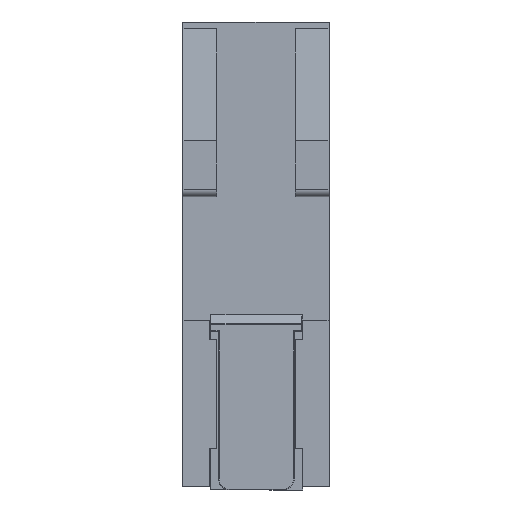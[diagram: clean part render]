
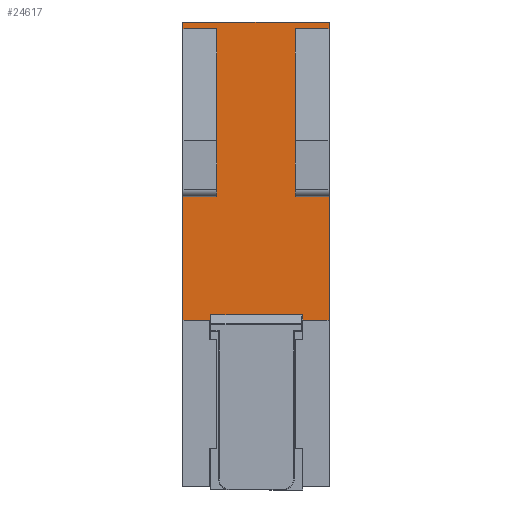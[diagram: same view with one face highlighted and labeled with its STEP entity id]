
A CAD part, left-side view. The second image highlights one B-rep face of the part: STEP entity #24617.
In plain terms, the highlighted planar face has unit normal (-1, 0, 0) as drawn and (1, 0, 0) by its records, which use the part's own axes.
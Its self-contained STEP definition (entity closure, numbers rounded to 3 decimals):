
#3613=CARTESIAN_POINT('',(1.5,62.0,39.0));
#3614=VERTEX_POINT('',#3613);
#3648=CARTESIAN_POINT('',(1.5,-17.7,39.0));
#3649=VERTEX_POINT('',#3648);
#3656=CARTESIAN_POINT('',(1.5,18.8,39.0));
#3657=VERTEX_POINT('',#3656);
#3658=CARTESIAN_POINT('',(1.5,-17.7,39.0));
#3659=DIRECTION('',(0.0,1.0,0.0));
#3660=VECTOR('',#3659,36.5);
#3661=LINE('',#3658,#3660);
#3662=EDGE_CURVE('',#3649,#3657,#3661,.T.);
#3714=CARTESIAN_POINT('',(1.5,60.179,39.0));
#3715=VERTEX_POINT('',#3714);
#3722=CARTESIAN_POINT('',(1.5,60.179,39.0));
#3723=DIRECTION('',(0.0,1.0,0.0));
#3724=VECTOR('',#3723,1.821);
#3725=LINE('',#3722,#3724);
#3726=EDGE_CURVE('',#3715,#3614,#3725,.T.);
#24375=CARTESIAN_POINT('',(1.5,18.8,30.));
#24376=VERTEX_POINT('',#24375);
#24386=CARTESIAN_POINT('',(1.5,60.179,30.));
#24387=VERTEX_POINT('',#24386);
#24388=CARTESIAN_POINT('',(1.5,18.8,30.0));
#24389=DIRECTION('',(0.0,1.0,0.0));
#24390=VECTOR('',#24389,41.379);
#24391=LINE('',#24388,#24390);
#24392=EDGE_CURVE('',#24376,#24387,#24391,.T.);
#24451=CARTESIAN_POINT('',(1.5,18.8,9.0));
#24452=VERTEX_POINT('',#24451);
#24501=CARTESIAN_POINT('',(1.5,60.179,9.0));
#24502=VERTEX_POINT('',#24501);
#24509=CARTESIAN_POINT('',(1.5,60.179,9.0));
#24510=DIRECTION('',(0.0,-1.0,0.0));
#24511=VECTOR('',#24510,41.379);
#24512=LINE('',#24509,#24511);
#24513=EDGE_CURVE('',#24502,#24452,#24512,.T.);
#24518=CARTESIAN_POINT('',(1.5,-17.7,39.0));
#24519=DIRECTION('',(1.0,0.0,0.0));
#24520=DIRECTION('',(0.0,0.0,-1.0));
#24521=AXIS2_PLACEMENT_3D('',#24518,#24519,#24520);
#24522=PLANE('',#24521);
#24523=CARTESIAN_POINT('',(1.5,18.8,39.0));
#24524=DIRECTION('',(0.0,0.0,-1.0));
#24525=VECTOR('',#24524,9.);
#24526=LINE('',#24523,#24525);
#24527=EDGE_CURVE('',#3657,#24376,#24526,.T.);
#24528=ORIENTED_EDGE('',*,*,#24527,.F.);
#24529=ORIENTED_EDGE('',*,*,#3662,.F.);
#24530=CARTESIAN_POINT('',(1.5,-17.7,32.0));
#24531=VERTEX_POINT('',#24530);
#24532=CARTESIAN_POINT('',(1.5,-17.7,39.0));
#24533=DIRECTION('',(0.0,0.0,-1.0));
#24534=VECTOR('',#24533,7.0);
#24535=LINE('',#24532,#24534);
#24536=EDGE_CURVE('',#3649,#24531,#24535,.T.);
#24537=ORIENTED_EDGE('',*,*,#24536,.T.);
#24538=CARTESIAN_POINT('',(1.5,-62.0,32.0));
#24539=VERTEX_POINT('',#24538);
#24540=CARTESIAN_POINT('',(1.5,-62.0,32.0));
#24541=DIRECTION('',(0.0,1.0,0.0));
#24542=VECTOR('',#24541,44.3);
#24543=LINE('',#24540,#24542);
#24544=EDGE_CURVE('',#24539,#24531,#24543,.T.);
#24545=ORIENTED_EDGE('',*,*,#24544,.F.);
#24546=CARTESIAN_POINT('',(1.5,-62.0,7.));
#24547=VERTEX_POINT('',#24546);
#24548=CARTESIAN_POINT('',(1.5,-62.0,7.));
#24549=DIRECTION('',(0.0,0.0,1.0));
#24550=VECTOR('',#24549,25.);
#24551=LINE('',#24548,#24550);
#24552=EDGE_CURVE('',#24547,#24539,#24551,.T.);
#24553=ORIENTED_EDGE('',*,*,#24552,.F.);
#24554=CARTESIAN_POINT('',(1.5,-17.7,7.));
#24555=VERTEX_POINT('',#24554);
#24556=CARTESIAN_POINT('',(1.5,-62.0,7.));
#24557=DIRECTION('',(0.0,1.0,0.0));
#24558=VECTOR('',#24557,44.3);
#24559=LINE('',#24556,#24558);
#24560=EDGE_CURVE('',#24547,#24555,#24559,.T.);
#24561=ORIENTED_EDGE('',*,*,#24560,.T.);
#24562=CARTESIAN_POINT('',(1.5,-17.7,0.0));
#24563=VERTEX_POINT('',#24562);
#24564=CARTESIAN_POINT('',(1.5,-17.7,7.));
#24565=DIRECTION('',(0.0,0.0,-1.0));
#24566=VECTOR('',#24565,7.);
#24567=LINE('',#24564,#24566);
#24568=EDGE_CURVE('',#24555,#24563,#24567,.T.);
#24569=ORIENTED_EDGE('',*,*,#24568,.T.);
#24570=CARTESIAN_POINT('',(1.5,18.8,0.0));
#24571=VERTEX_POINT('',#24570);
#24572=CARTESIAN_POINT('',(1.5,18.8,0.0));
#24573=DIRECTION('',(0.0,-1.0,0.0));
#24574=VECTOR('',#24573,36.5);
#24575=LINE('',#24572,#24574);
#24576=EDGE_CURVE('',#24571,#24563,#24575,.T.);
#24577=ORIENTED_EDGE('',*,*,#24576,.F.);
#24578=CARTESIAN_POINT('',(1.5,18.8,9.0));
#24579=DIRECTION('',(0.0,0.0,-1.0));
#24580=VECTOR('',#24579,9.0);
#24581=LINE('',#24578,#24580);
#24582=EDGE_CURVE('',#24452,#24571,#24581,.T.);
#24583=ORIENTED_EDGE('',*,*,#24582,.F.);
#24584=ORIENTED_EDGE('',*,*,#24513,.F.);
#24585=CARTESIAN_POINT('',(1.5,60.179,0.0));
#24586=VERTEX_POINT('',#24585);
#24587=CARTESIAN_POINT('',(1.5,60.179,9.0));
#24588=DIRECTION('',(0.0,0.0,-1.0));
#24589=VECTOR('',#24588,9.0);
#24590=LINE('',#24587,#24589);
#24591=EDGE_CURVE('',#24502,#24586,#24590,.T.);
#24592=ORIENTED_EDGE('',*,*,#24591,.T.);
#24593=CARTESIAN_POINT('',(1.5,62.0,0.0));
#24594=VERTEX_POINT('',#24593);
#24595=CARTESIAN_POINT('',(1.5,62.0,0.0));
#24596=DIRECTION('',(0.0,-1.0,0.0));
#24597=VECTOR('',#24596,1.821);
#24598=LINE('',#24595,#24597);
#24599=EDGE_CURVE('',#24594,#24586,#24598,.T.);
#24600=ORIENTED_EDGE('',*,*,#24599,.F.);
#24601=CARTESIAN_POINT('',(1.5,62.0,39.0));
#24602=DIRECTION('',(0.0,0.0,-1.0));
#24603=VECTOR('',#24602,39.0);
#24604=LINE('',#24601,#24603);
#24605=EDGE_CURVE('',#3614,#24594,#24604,.T.);
#24606=ORIENTED_EDGE('',*,*,#24605,.F.);
#24607=ORIENTED_EDGE('',*,*,#3726,.F.);
#24608=CARTESIAN_POINT('',(1.5,60.179,39.0));
#24609=DIRECTION('',(0.0,0.0,-1.0));
#24610=VECTOR('',#24609,9.);
#24611=LINE('',#24608,#24610);
#24612=EDGE_CURVE('',#3715,#24387,#24611,.T.);
#24613=ORIENTED_EDGE('',*,*,#24612,.T.);
#24614=ORIENTED_EDGE('',*,*,#24392,.F.);
#24615=EDGE_LOOP('',(#24528,#24529,#24537,#24545,#24553,#24561,#24569,#24577,#24583,#24584,#24592,#24600,#24606,#24607,#24613,#24614));
#24616=FACE_OUTER_BOUND('',#24615,.T.);
#24617=ADVANCED_FACE('',(#24616),#24522,.T.);
